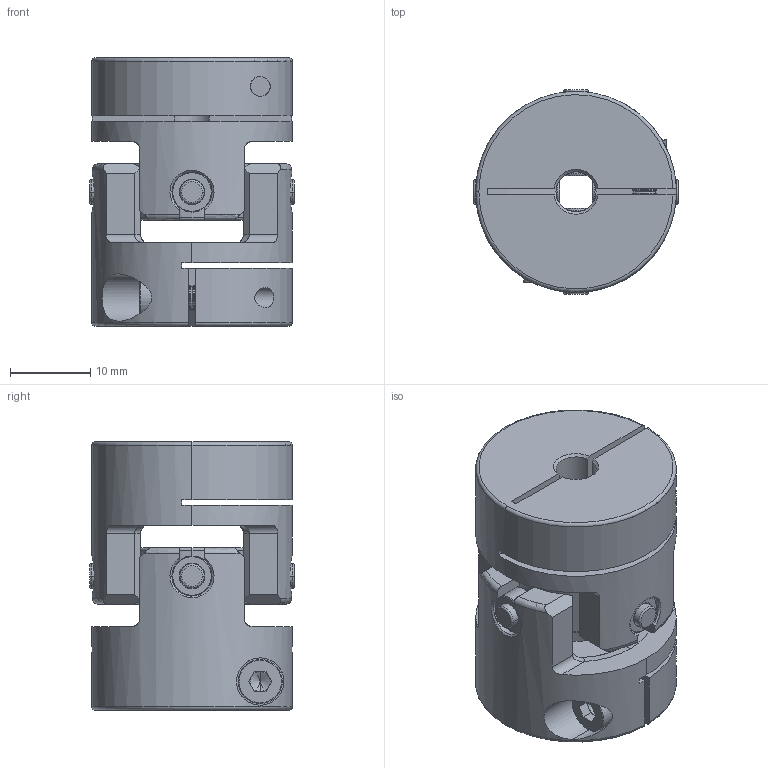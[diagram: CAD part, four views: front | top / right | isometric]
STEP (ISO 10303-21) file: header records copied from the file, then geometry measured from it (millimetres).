
FILE_DESCRIPTION (( 'STEP AP203' ), '1' );
FILE_NAME ('SCJB-25C-5X10_203.STEP', '2013-03-06T01:21:49', ( '' ), ( '' ), 'SwSTEP 2.0', 'SolidWorks 2012', '' );
FILE_SCHEMA (( 'CONFIG_CONTROL_DESIGN' ));
Length unit declared in the file: millimetre
Products named in the file (1): SCJB-25C-5X10_203
Bounding box: 25.5 x 25.5 x 33.4 mm (x, y, z)
Volume: 11546 mm3; surface area: 7805.4 mm2
Topology: 1 solids, 21 shells, 567 faces, 1302 edges, 749 vertices
Faces by surface type: cone 187, cylinder 176, plane 116, torus 76, bspline 12
Entity records: 21380 total; most frequent: CARTESIAN_POINT 8454, DIRECTION 2863, ORIENTED_EDGE 2596, EDGE_CURVE 1298, AXIS2_PLACEMENT_3D 1174, VERTEX_POINT 749, CIRCLE 618, EDGE_LOOP 597
